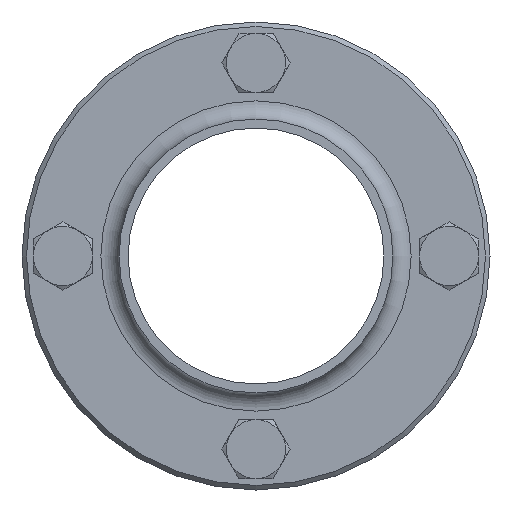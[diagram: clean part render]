
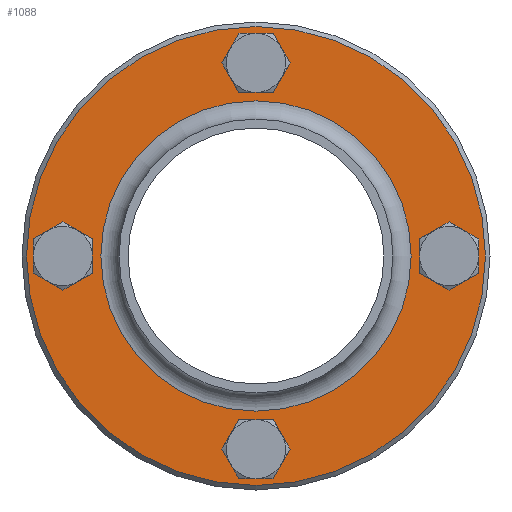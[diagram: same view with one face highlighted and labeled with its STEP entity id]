
A CAD part, front view. The second image highlights one B-rep face of the part: STEP entity #1088.
In plain terms, the highlighted planar face has unit normal (0, -1, 0).
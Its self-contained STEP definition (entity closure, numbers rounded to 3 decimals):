
#152=PLANE('',#1195);
#211=FACE_BOUND('',#381,.T.);
#212=FACE_BOUND('',#382,.T.);
#213=FACE_BOUND('',#383,.T.);
#214=FACE_BOUND('',#384,.T.);
#215=FACE_BOUND('',#385,.T.);
#280=FACE_OUTER_BOUND('',#380,.T.);
#380=EDGE_LOOP('',(#812));
#381=EDGE_LOOP('',(#813));
#382=EDGE_LOOP('',(#814));
#383=EDGE_LOOP('',(#815));
#384=EDGE_LOOP('',(#816));
#385=EDGE_LOOP('',(#817));
#491=CIRCLE('',#1155,4.5);
#493=CIRCLE('',#1158,4.5);
#495=CIRCLE('',#1161,4.5);
#497=CIRCLE('',#1164,4.5);
#513=CIRCLE('',#1194,50.5);
#514=CIRCLE('',#1196,34.15);
#563=VERTEX_POINT('',#1674);
#565=VERTEX_POINT('',#1679);
#567=VERTEX_POINT('',#1684);
#569=VERTEX_POINT('',#1689);
#585=VERTEX_POINT('',#1735);
#586=VERTEX_POINT('',#1738);
#658=EDGE_CURVE('',#563,#563,#491,.T.);
#660=EDGE_CURVE('',#565,#565,#493,.T.);
#662=EDGE_CURVE('',#567,#567,#495,.T.);
#664=EDGE_CURVE('',#569,#569,#497,.T.);
#680=EDGE_CURVE('',#585,#585,#513,.T.);
#681=EDGE_CURVE('',#586,#586,#514,.T.);
#812=ORIENTED_EDGE('',*,*,#680,.T.);
#813=ORIENTED_EDGE('',*,*,#658,.T.);
#814=ORIENTED_EDGE('',*,*,#660,.T.);
#815=ORIENTED_EDGE('',*,*,#662,.T.);
#816=ORIENTED_EDGE('',*,*,#664,.T.);
#817=ORIENTED_EDGE('',*,*,#681,.F.);
#1088=ADVANCED_FACE('',(#280,#211,#212,#213,#214,#215),#152,.T.);
#1155=AXIS2_PLACEMENT_3D('',#1675,#1324,#1325);
#1158=AXIS2_PLACEMENT_3D('',#1680,#1330,#1331);
#1161=AXIS2_PLACEMENT_3D('',#1685,#1336,#1337);
#1164=AXIS2_PLACEMENT_3D('',#1690,#1342,#1343);
#1194=AXIS2_PLACEMENT_3D('',#1736,#1402,#1403);
#1195=AXIS2_PLACEMENT_3D('',#1737,#1404,#1405);
#1196=AXIS2_PLACEMENT_3D('',#1739,#1406,#1407);
#1324=DIRECTION('center_axis',(0.,1.,0.));
#1325=DIRECTION('ref_axis',(0.,0.,1.));
#1330=DIRECTION('center_axis',(0.,1.,0.));
#1331=DIRECTION('ref_axis',(1.,0.,0.));
#1336=DIRECTION('center_axis',(0.,1.,0.));
#1337=DIRECTION('ref_axis',(0.,0.,-1.));
#1342=DIRECTION('center_axis',(0.,1.,0.));
#1343=DIRECTION('ref_axis',(-1.,0.,0.));
#1402=DIRECTION('center_axis',(0.,-1.,0.));
#1403=DIRECTION('ref_axis',(1.,0.,0.));
#1404=DIRECTION('center_axis',(0.,-1.,0.));
#1405=DIRECTION('ref_axis',(0.,0.,-1.));
#1406=DIRECTION('center_axis',(0.,-1.,0.));
#1407=DIRECTION('ref_axis',(1.,0.,0.));
#1674=CARTESIAN_POINT('',(-42.5,44.,-4.5));
#1675=CARTESIAN_POINT('Origin',(-42.5,44.,0.));
#1679=CARTESIAN_POINT('',(-4.5,44.,42.5));
#1680=CARTESIAN_POINT('Origin',(0.,44.,42.5));
#1684=CARTESIAN_POINT('',(42.5,44.,4.5));
#1685=CARTESIAN_POINT('Origin',(42.5,44.,0.));
#1689=CARTESIAN_POINT('',(4.5,44.,-42.5));
#1690=CARTESIAN_POINT('Origin',(0.,44.,-42.5));
#1735=CARTESIAN_POINT('',(50.5,44.,0.));
#1736=CARTESIAN_POINT('Origin',(0.,44.,0.));
#1737=CARTESIAN_POINT('Origin',(42.325,44.,0.));
#1738=CARTESIAN_POINT('',(34.15,44.,0.));
#1739=CARTESIAN_POINT('Origin',(0.,44.,0.));
